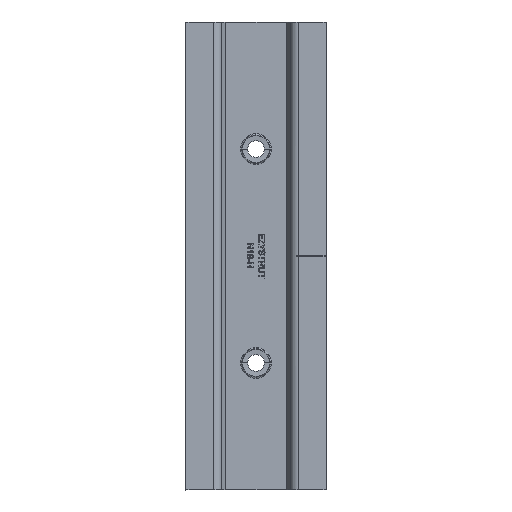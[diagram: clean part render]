
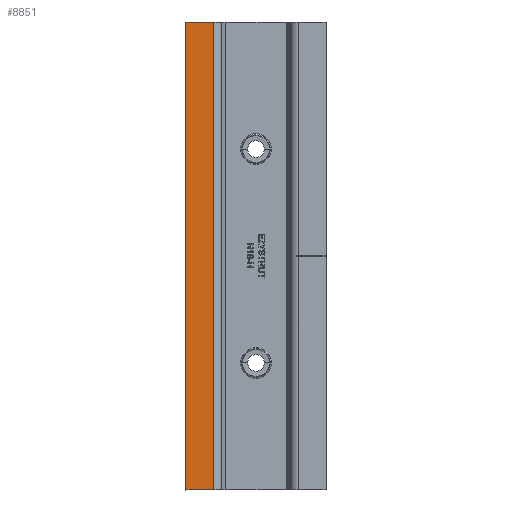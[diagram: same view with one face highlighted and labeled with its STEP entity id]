
A CAD part, front view. The second image highlights one B-rep face of the part: STEP entity #8851.
In plain terms, the highlighted planar face has unit normal (0, -1, 0).
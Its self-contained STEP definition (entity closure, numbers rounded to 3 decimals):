
#399 = LINE ( 'NONE', #3225, #1811 ) ;
#563 = CARTESIAN_POINT ( 'NONE',  ( -17.797, -3., -98.5 ) ) ;
#612 = ORIENTED_EDGE ( 'NONE', *, *, #667, .F. ) ;
#645 = DIRECTION ( 'NONE',  ( 1., 0., 0. ) ) ;
#667 = EDGE_CURVE ( 'NONE', #6723, #6593, #7167, .T. ) ;
#806 = CARTESIAN_POINT ( 'NONE',  ( -29.5, -3., -98.5 ) ) ;
#1210 = EDGE_CURVE ( 'NONE', #6723, #6375, #399, .T. ) ;
#1389 = LINE ( 'NONE', #7708, #7905 ) ;
#1446 = LINE ( 'NONE', #3483, #5802 ) ;
#1811 = VECTOR ( 'NONE', #7372, 1000. ) ;
#2259 = VECTOR ( 'NONE', #7805, 1000. ) ;
#2909 = DIRECTION ( 'NONE',  ( -1., 0., 0. ) ) ;
#3225 = CARTESIAN_POINT ( 'NONE',  ( -29.5, -3., 98.5 ) ) ;
#3414 = EDGE_CURVE ( 'NONE', #8395, #6593, #1446, .T. ) ;
#3483 = CARTESIAN_POINT ( 'NONE',  ( -17.797, -3., -98.5 ) ) ;
#4084 = AXIS2_PLACEMENT_3D ( 'NONE', #4244, #7102, #2909 ) ;
#4244 = CARTESIAN_POINT ( 'NONE',  ( -15.715, -3., 98.5 ) ) ;
#4287 = PLANE ( 'NONE',  #4084 ) ;
#4504 = ORIENTED_EDGE ( 'NONE', *, *, #1210, .T. ) ;
#5460 = ORIENTED_EDGE ( 'NONE', *, *, #7911, .T. ) ;
#5802 = VECTOR ( 'NONE', #7859, 1000. ) ;
#6295 = CARTESIAN_POINT ( 'NONE',  ( -15.715, -3., 98.5 ) ) ;
#6375 = VERTEX_POINT ( 'NONE', #806 ) ;
#6416 = FACE_OUTER_BOUND ( 'NONE', #6949, .T. ) ;
#6541 = CARTESIAN_POINT ( 'NONE',  ( -29.5, -3., 98.5 ) ) ;
#6593 = VERTEX_POINT ( 'NONE', #9063 ) ;
#6723 = VERTEX_POINT ( 'NONE', #6541 ) ;
#6949 = EDGE_LOOP ( 'NONE', ( #5460, #8538, #612, #4504 ) ) ;
#7102 = DIRECTION ( 'NONE',  ( 0., 1., 0. ) ) ;
#7167 = LINE ( 'NONE', #6295, #2259 ) ;
#7372 = DIRECTION ( 'NONE',  ( 0., 0., -1. ) ) ;
#7708 = CARTESIAN_POINT ( 'NONE',  ( -15.715, -3., -98.5 ) ) ;
#7805 = DIRECTION ( 'NONE',  ( 1., 0., 0. ) ) ;
#7859 = DIRECTION ( 'NONE',  ( 0., 0., 1. ) ) ;
#7905 = VECTOR ( 'NONE', #645, 1000. ) ;
#7911 = EDGE_CURVE ( 'NONE', #6375, #8395, #1389, .T. ) ;
#8395 = VERTEX_POINT ( 'NONE', #563 ) ;
#8538 = ORIENTED_EDGE ( 'NONE', *, *, #3414, .T. ) ;
#8851 = ADVANCED_FACE ( 'NONE', ( #6416 ), #4287, .F. ) ;
#9063 = CARTESIAN_POINT ( 'NONE',  ( -17.797, -3., 98.5 ) ) ;
